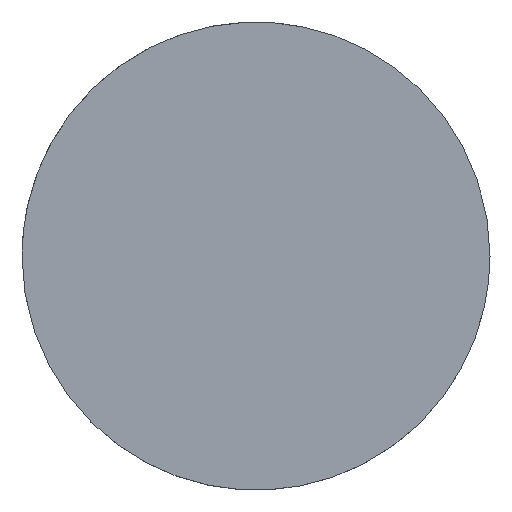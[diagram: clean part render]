
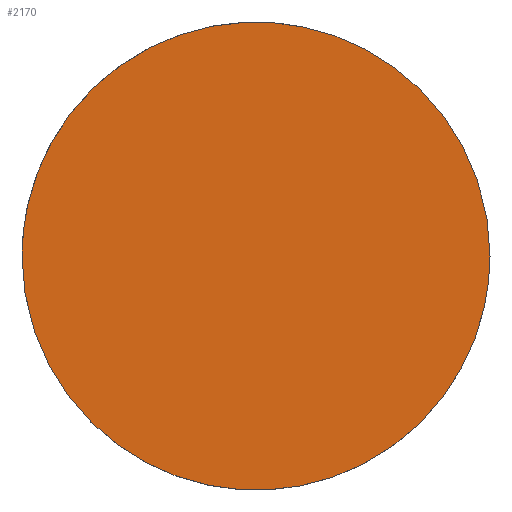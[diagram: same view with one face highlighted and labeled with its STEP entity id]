
A CAD part, top view. The second image highlights one B-rep face of the part: STEP entity #2170.
In plain terms, the highlighted planar face has unit normal (0, 0, 1).
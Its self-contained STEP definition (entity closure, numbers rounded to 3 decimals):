
#190 = CARTESIAN_POINT ('', (-12.5, 0., -15.726));
#200 = VERTEX_POINT ('', #190);
#260 = CARTESIAN_POINT ('', (12.5, 0., -15.726));
#270 = VERTEX_POINT ('', #260);
#280 = CARTESIAN_POINT ('', (12.5, 0., -15.726));
#290 = CARTESIAN_POINT ('', (12.5, 12.5, -15.726));
#300 = CARTESIAN_POINT ('', (0., 12.5, -15.726));
#310 = CARTESIAN_POINT ('', (-12.5, 12.5, -15.726));
#320 = CARTESIAN_POINT ('', (-12.5, 0., -15.726));
#330 = (
   BOUNDED_CURVE ()
   B_SPLINE_CURVE (2, (#280, #290, #300, #310, #320), .UNSPECIFIED., .F., .U.)
   B_SPLINE_CURVE_WITH_KNOTS ((3, 2, 3), (0., 1.571, 3.142), .UNSPECIFIED.)
   CURVE ()
   GEOMETRIC_REPRESENTATION_ITEM ()
   RATIONAL_B_SPLINE_CURVE ((1., 0.707, 1., 0.707, 1.))
   REPRESENTATION_ITEM ('')
);
#340 = EDGE_CURVE ('', #270, #200, #330, .T.);
#580 = CARTESIAN_POINT ('', (-12.5, 0., -15.726));
#590 = CARTESIAN_POINT ('', (-12.5, -12.5, -15.726));
#600 = CARTESIAN_POINT ('', (0., -12.5, -15.726));
#610 = CARTESIAN_POINT ('', (12.5, -12.5, -15.726));
#620 = CARTESIAN_POINT ('', (12.5, 0., -15.726));
#630 = (
   BOUNDED_CURVE ()
   B_SPLINE_CURVE (2, (#580, #590, #600, #610, #620), .UNSPECIFIED., .F., .U.)
   B_SPLINE_CURVE_WITH_KNOTS ((3, 2, 3), (3.142, 4.712, 6.283), .UNSPECIFIED.)
   CURVE ()
   GEOMETRIC_REPRESENTATION_ITEM ()
   RATIONAL_B_SPLINE_CURVE ((1., 0.707, 1., 0.707, 1.))
   REPRESENTATION_ITEM ('')
);
#640 = EDGE_CURVE ('', #200, #270, #630, .T.);
#2080 = ORIENTED_EDGE ('', *, *, #340, .T.);
#2090 = ORIENTED_EDGE ('', *, *, #640, .T.);
#2100 = EDGE_LOOP ('', (#2080, #2090));
#2110 = FACE_OUTER_BOUND ('', #2100, .T.);
#2120 = CARTESIAN_POINT ('', (0., 25.704, -15.726));
#2130 = DIRECTION ('', (0., 0., 1.));
#2140 = DIRECTION ('', (-0.707, -0.707, 0.));
#2150 = AXIS2_PLACEMENT_3D ('', #2120, #2130, #2140);
#2160 = PLANE ('', #2150);
#2170 = ADVANCED_FACE ('', (#2110), #2160, .T.);
